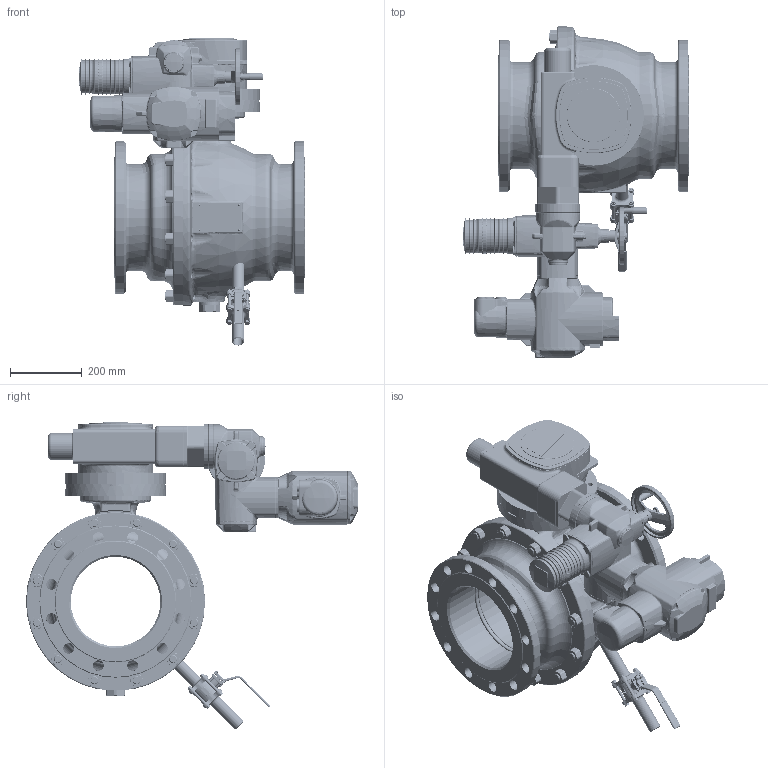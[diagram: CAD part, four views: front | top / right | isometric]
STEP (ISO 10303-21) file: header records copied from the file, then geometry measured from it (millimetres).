
FILE_DESCRIPTION((''),'2;1');
FILE_NAME('250_ASM','2017-01-17T',('schwaba'),('RAND'),'PRO/ENGINEER BY PARAMETRIC TECHNOLOGY CORPORATION, 2016100','PRO/ENGINEER BY PARAMETRIC TECHNOLOGY CORPORATION, 2016100','');
FILE_SCHEMA(('CONFIG_CONTROL_DESIGN'));
Products named in the file (3): KHI_250_PN25_FR_WE_ENTL_O_IT; GS100_F16_SA07_AM_ZWPL_DN250; 250_ASM
Assembly tree (2 placements, depth 2):
  250_ASM
    KHI_250_PN25_FR_WE_ENTL_O_IT
    GS100_F16_SA07_AM_ZWPL_DN250
Bounding box: 631.5 x 926.98 x 857.35 mm (x, y, z)
Volume: 50709576.8 mm3; surface area: 4434449.8 mm2
Topology: 3 solids, 10 shells, 5946 faces, 14538 edges, 8743 vertices
Faces by surface type: plane 1889, bspline 1327, cylinder 1260, torus 725, cone 624, sphere 121
Entity records: 386965 total; most frequent: CARTESIAN_POINT 256057, ORIENTED_EDGE 28968, DIRECTION 25420, EDGE_CURVE 14484, AXIS2_PLACEMENT_3D 9904, VERTEX_POINT 8743, EDGE_LOOP 6277, FACE_OUTER_BOUND 5946
